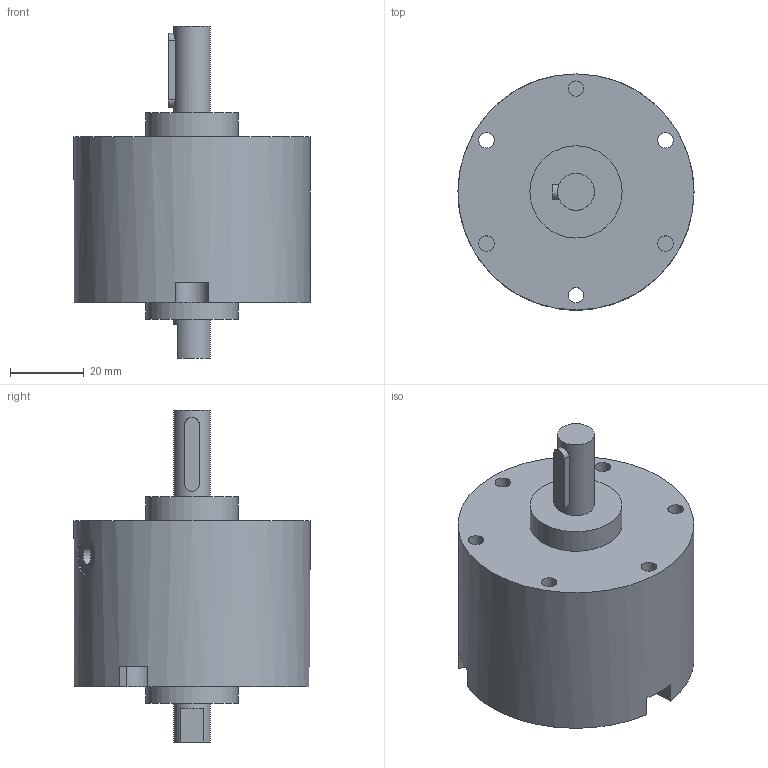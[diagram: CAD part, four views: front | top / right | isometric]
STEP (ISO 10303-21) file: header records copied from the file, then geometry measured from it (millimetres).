
FILE_DESCRIPTION(/* description */ (''),/* implementation_level */ '2;1');
FILE_NAME(/* name */ 'I:\Area Tecnica\Disegni\VARIE-3D\Componenti\6420\6420_##_###\6420_40_180.stp',/* time_stamp */ '2017-04-08T10:39:14+02:00',/* author */ ('Maniean1'),/* organization */ ('Pneumax S.p.A.'),/* preprocessor_version */ 'ST-DEVELOPER v15.2',/* originating_system */ 'Autodesk Inventor 2014',/* authorisation */ '');
FILE_SCHEMA (('AUTOMOTIVE_DESIGN { 1 0 10303 214 3 1 1 }'));
Length unit declared in the file: millimetre
Products named in the file (3): 6420_40_C; 6420_40_S; 6420_40_180
Bounding box: 64 x 64 x 90 mm (x, y, z)
Volume: 149190.4 mm3; surface area: 23393.7 mm2
Topology: 2 solids, 2 shells, 53 faces, 116 edges, 79 vertices
Faces by surface type: plane 30, cylinder 23
Full cylindrical faces by diameter (mm): 4.2 x6, 5 x5, 10 x2, 10.5 x2, 25 x2, 64 x1
Entity records: 1525 total; most frequent: CARTESIAN_POINT 316, DIRECTION 248, ORIENTED_EDGE 176, AXIS2_PLACEMENT_3D 106, EDGE_LOOP 92, EDGE_CURVE 88, VERTEX_POINT 70, ADVANCED_FACE 53
